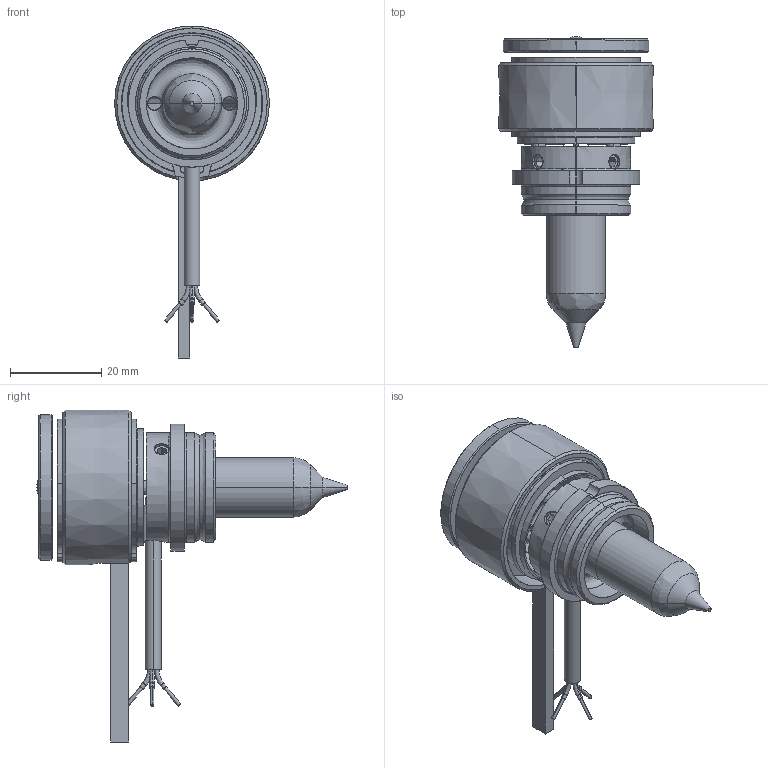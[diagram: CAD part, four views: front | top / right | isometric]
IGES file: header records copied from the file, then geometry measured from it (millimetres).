
Start section: SolidWorks IGES file using analytic representation for surfaces
Global section: file name: C:\Documents and Settings\ws-20\Desktop\TEM\UGGS2510-S-0 [Øf-0.89].IGS; native system: SolidWorks 2012; preprocessor: SolidWorks 2012; author: ws-20; date: 120516.092717; units: millimetre
Bounding box: 34 x 68.3 x 72.9 mm (x, y, z)
Surface area: 15301.6 mm2 (no closed solid volume)
Topology: 0 solids, 0 shells, 208 faces, 2971 edges, 2965 vertices
Faces by surface type: revolution 129, bspline 79
